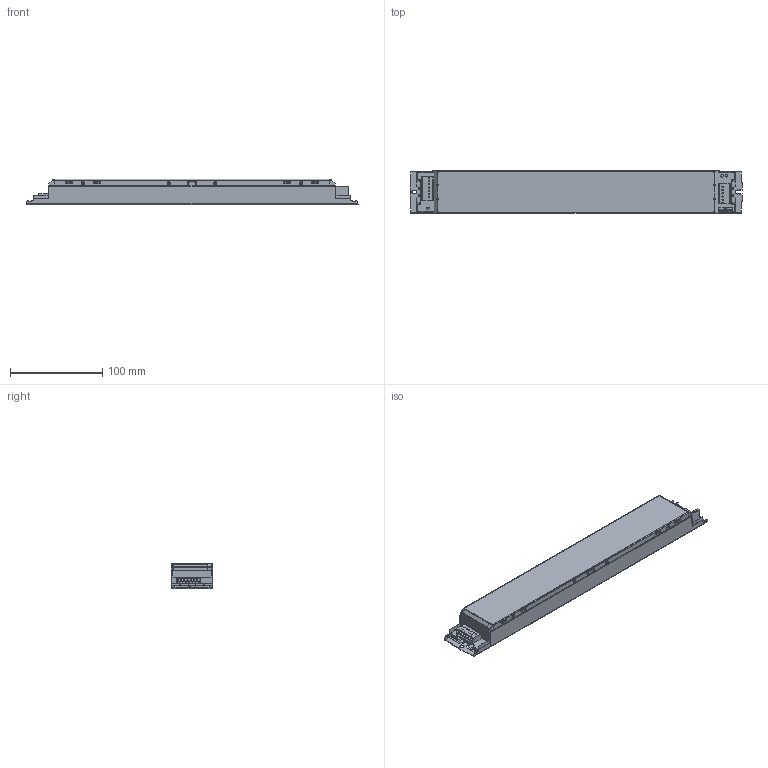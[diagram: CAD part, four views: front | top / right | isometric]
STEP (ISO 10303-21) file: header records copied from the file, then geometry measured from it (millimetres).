
FILE_DESCRIPTION (( 'STEP AP214' ), '1' );
FILE_NAME ('4264438swm000.step', '2020-11-25T03:14:23', ( 'Windows User' ), ( '' ), 'SwSTEP 2.0', 'SolidWorks 2020', '' );
FILE_SCHEMA (( 'AUTOMOTIVE_DESIGN' ));
Length unit declared in the file: millimetre
Products named in the file (1): 4264438swm000
Bounding box: 359 x 45.4 x 27.5 mm (x, y, z)
Volume: 386498.3 mm3; surface area: 76633.1 mm2
Topology: 1 solids, 17 shells, 1978 faces, 5413 edges, 3414 vertices
Faces by surface type: plane 1254, cylinder 620, bspline 50, sphere 46, cone 6, torus 2
Entity records: 69824 total; most frequent: CARTESIAN_POINT 13796, ORIENTED_EDGE 10756, DIRECTION 9889, EDGE_CURVE 5378, LINE 3829, VECTOR 3829, VERTEX_POINT 3413, AXIS2_PLACEMENT_3D 3030
